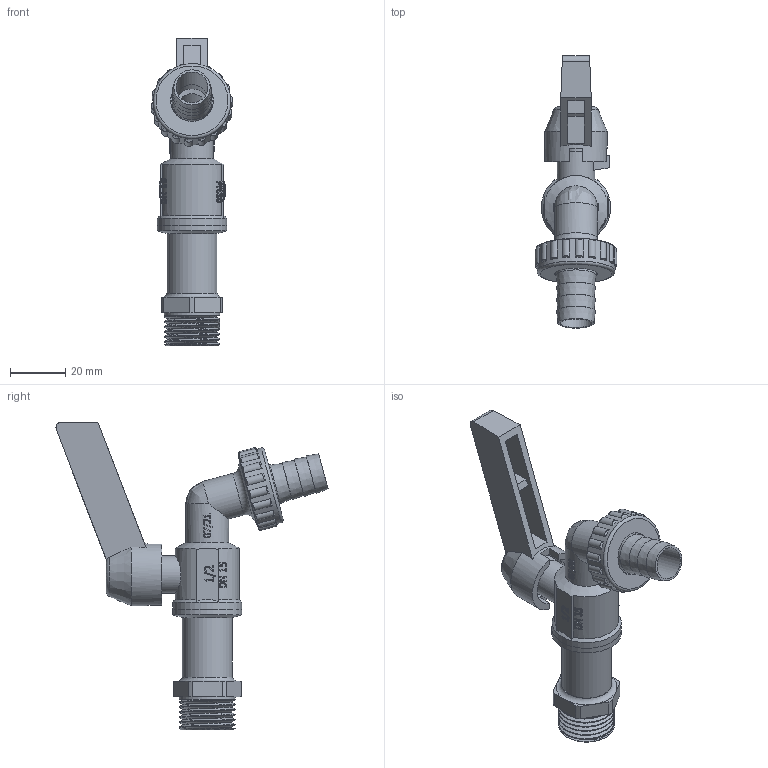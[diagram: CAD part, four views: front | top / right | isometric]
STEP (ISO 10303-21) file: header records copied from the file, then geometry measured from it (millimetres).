
FILE_DESCRIPTION(/* description */ (''),/* implementation_level */ '2;1');
FILE_NAME(/* name */ 'C:\Users\Doom\Desktop\Фадотех\PK01 08.11.2021\PK01 08.11.2021.stp',/* time_stamp */ '2021-12-06T01:30:16+02:00',/* author */ ('Doom'),/* organization */ (''),/* preprocessor_version */ 'ST-DEVELOPER v18',/* originating_system */ 'Autodesk Inventor 2020',/* authorisation */ '');
FILE_SCHEMA (('AUTOMOTIVE_DESIGN { 1 0 10303 214 3 1 1 }'));
Products named in the file (9): PK01 08.11.2021; 20642121; 22204024; 216223156; 50102048001; 50502000251; 50702000251; DIN 923 - M4 x 8; 50602000251
Assembly tree (8 placements, depth 2):
  PK01 08.11.2021
    20642121
    22204024
    216223156
    50102048001
    50502000251
    50702000251
    DIN 923 - M4 x 8
    50602000251
Bounding box: 29.4 x 98.15 x 110.99 mm (x, y, z)
Volume: 31637 mm3; surface area: 35658.8 mm2
Topology: 14 solids, 14 shells, 670 faces, 1828 edges, 1241 vertices
Faces by surface type: plane 285, bspline 171, cylinder 159, cone 47, torus 6, sphere 2
Full cylindrical faces by diameter (mm): 2.226 x12, 3.141 x1, 3.264 x2, 4 x1, 4.5 x1, 5.5 x1, 6.2 x2, 8 x4, 8.5 x1, 9 x1, 9.121 x1, 10 x2, 10.016 x1, 10.5 x2, 11.5 x1, 12.1 x1, 13.5 x1, 14.5 x1, 14.764 x1, 15 x2, 15.5 x5, 17 x1, 17.017 x5, 17.41 x2, 17.776 x2, 18 x1, 18.5 x2, 20 x9, 20.1 x8, 20.5 x1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
Entity records: 41444 total; most frequent: CARTESIAN_POINT 25131, ORIENTED_EDGE 3630, DIRECTION 2844, EDGE_CURVE 1815, VERTEX_POINT 1237, AXIS2_PLACEMENT_3D 1037, LINE 770, VECTOR 770
